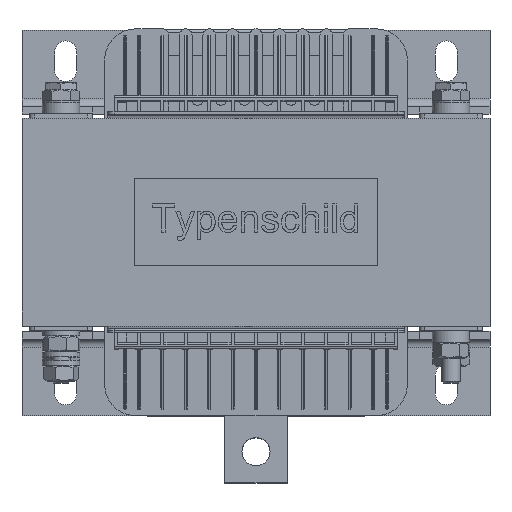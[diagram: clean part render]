
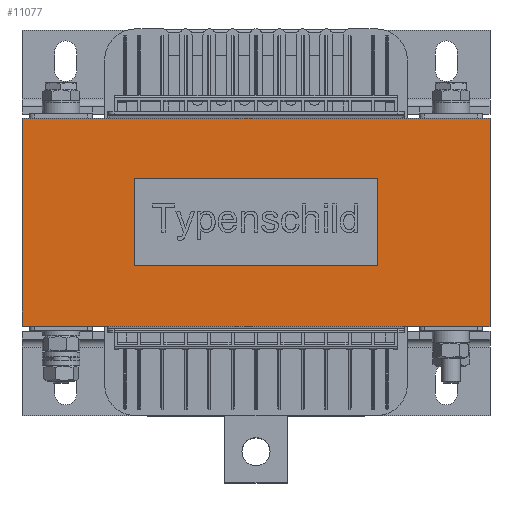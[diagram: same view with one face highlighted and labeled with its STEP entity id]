
A CAD part, top view. The second image highlights one B-rep face of the part: STEP entity #11077.
In plain terms, the highlighted planar face has unit normal (0, 0, 1).
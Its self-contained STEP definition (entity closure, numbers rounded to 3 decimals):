
#8918=CARTESIAN_POINT('',(-75.,33.3,63.5));
#8919=VERTEX_POINT('',#8918);
#8926=CARTESIAN_POINT('',(75.,33.3,63.5));
#8927=VERTEX_POINT('',#8926);
#8928=CARTESIAN_POINT('',(75.,33.3,63.5));
#8929=DIRECTION('',(-1.0,0.0,0.0));
#8930=VECTOR('',#8929,150.);
#8931=LINE('',#8928,#8930);
#8932=EDGE_CURVE('',#8927,#8919,#8931,.T.);
#9689=CARTESIAN_POINT('',(75.,-33.3,63.5));
#9690=VERTEX_POINT('',#9689);
#9697=CARTESIAN_POINT('',(-75.,-33.3,63.5));
#9698=VERTEX_POINT('',#9697);
#9699=CARTESIAN_POINT('',(-75.,-33.3,63.5));
#9700=DIRECTION('',(1.0,0.0,0.0));
#9701=VECTOR('',#9700,150.);
#9702=LINE('',#9699,#9701);
#9703=EDGE_CURVE('',#9698,#9690,#9702,.T.);
#11022=CARTESIAN_POINT('',(-75.,0.0,63.5));
#11023=DIRECTION('',(0.0,0.0,1.0));
#11024=DIRECTION('',(-1.0,0.0,0.0));
#11025=AXIS2_PLACEMENT_3D('',#11022,#11023,#11024);
#11026=PLANE('',#11025);
#11027=ORIENTED_EDGE('',*,*,#9703,.T.);
#11028=CARTESIAN_POINT('',(75.,-33.3,63.5));
#11029=DIRECTION('',(0.0,1.0,0.0));
#11030=VECTOR('',#11029,66.6);
#11031=LINE('',#11028,#11030);
#11032=EDGE_CURVE('',#9690,#8927,#11031,.T.);
#11033=ORIENTED_EDGE('',*,*,#11032,.T.);
#11034=ORIENTED_EDGE('',*,*,#8932,.T.);
#11035=CARTESIAN_POINT('',(-75.,33.3,63.5));
#11036=DIRECTION('',(0.0,-1.0,0.0));
#11037=VECTOR('',#11036,66.6);
#11038=LINE('',#11035,#11037);
#11039=EDGE_CURVE('',#8919,#9698,#11038,.T.);
#11040=ORIENTED_EDGE('',*,*,#11039,.T.);
#11041=EDGE_LOOP('',(#11027,#11033,#11034,#11040));
#11042=FACE_OUTER_BOUND('',#11041,.T.);
#11043=CARTESIAN_POINT('',(-39.,14.,63.5));
#11044=VERTEX_POINT('',#11043);
#11045=CARTESIAN_POINT('',(-39.,-14.,63.5));
#11046=VERTEX_POINT('',#11045);
#11047=CARTESIAN_POINT('',(-39.,14.,63.5));
#11048=DIRECTION('',(0.0,-1.0,0.0));
#11049=VECTOR('',#11048,28.);
#11050=LINE('',#11047,#11049);
#11051=EDGE_CURVE('',#11044,#11046,#11050,.T.);
#11052=ORIENTED_EDGE('',*,*,#11051,.F.);
#11053=CARTESIAN_POINT('',(39.,14.,63.5));
#11054=VERTEX_POINT('',#11053);
#11055=CARTESIAN_POINT('',(39.,14.,63.5));
#11056=DIRECTION('',(-1.0,0.0,0.0));
#11057=VECTOR('',#11056,78.0);
#11058=LINE('',#11055,#11057);
#11059=EDGE_CURVE('',#11054,#11044,#11058,.T.);
#11060=ORIENTED_EDGE('',*,*,#11059,.F.);
#11061=CARTESIAN_POINT('',(39.,-14.,63.5));
#11062=VERTEX_POINT('',#11061);
#11063=CARTESIAN_POINT('',(39.,-14.,63.5));
#11064=DIRECTION('',(0.0,1.0,0.0));
#11065=VECTOR('',#11064,28.);
#11066=LINE('',#11063,#11065);
#11067=EDGE_CURVE('',#11062,#11054,#11066,.T.);
#11068=ORIENTED_EDGE('',*,*,#11067,.F.);
#11069=CARTESIAN_POINT('',(-39.,-14.,63.5));
#11070=DIRECTION('',(1.0,0.0,0.0));
#11071=VECTOR('',#11070,78.);
#11072=LINE('',#11069,#11071);
#11073=EDGE_CURVE('',#11046,#11062,#11072,.T.);
#11074=ORIENTED_EDGE('',*,*,#11073,.F.);
#11075=EDGE_LOOP('',(#11052,#11060,#11068,#11074));
#11076=FACE_BOUND('',#11075,.T.);
#11077=ADVANCED_FACE('',(#11042,#11076),#11026,.T.);
